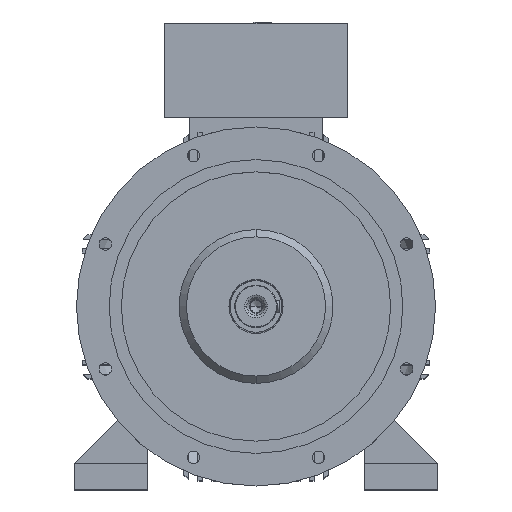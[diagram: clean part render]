
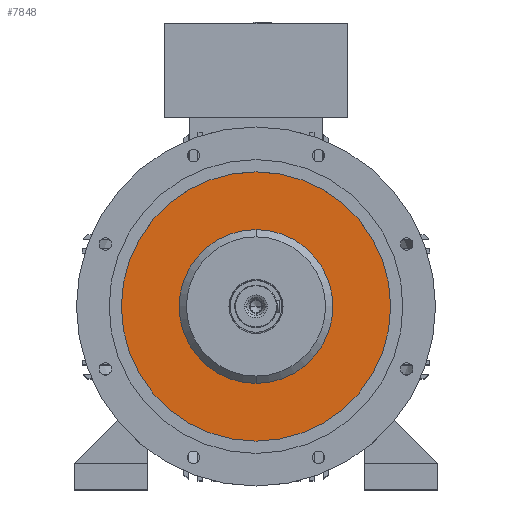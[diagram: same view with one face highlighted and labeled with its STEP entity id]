
A CAD part, top view. The second image highlights one B-rep face of the part: STEP entity #7848.
In plain terms, the highlighted planar face has unit normal (0, 0, 1).
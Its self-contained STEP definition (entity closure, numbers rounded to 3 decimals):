
#946 = AXIS2_PLACEMENT_3D ( 'NONE', #8047, #3389, #8259 ) ;
#1130 = CIRCLE ( 'NONE', #11736, 206.25 ) ;
#3214 = EDGE_CURVE ( 'NONE', #23810, #18027, #1130, .T. ) ;
#3389 = DIRECTION ( 'NONE',  ( 0., 0., 1. ) ) ;
#4090 = CIRCLE ( 'NONE', #21798, 206.25 ) ;
#6023 = CIRCLE ( 'NONE', #6583, 117.8 ) ;
#6480 = VERTEX_POINT ( 'NONE', #24193 ) ;
#6583 = AXIS2_PLACEMENT_3D ( 'NONE', #8346, #29762, #29672 ) ;
#7188 = CARTESIAN_POINT ( 'NONE',  ( 0., 0., 386.3 ) ) ;
#7431 = ORIENTED_EDGE ( 'NONE', *, *, #16953, .T. ) ;
#7848 = ADVANCED_FACE ( 'NONE', ( #28705, #17623 ), #22465, .T. ) ;
#8047 = CARTESIAN_POINT ( 'NONE',  ( 0., 206.25, 386.3 ) ) ;
#8259 = DIRECTION ( 'NONE',  ( 1., 0., 0. ) ) ;
#8346 = CARTESIAN_POINT ( 'NONE',  ( 0., 0., 386.3 ) ) ;
#9181 = ORIENTED_EDGE ( 'NONE', *, *, #12328, .T. ) ;
#11736 = AXIS2_PLACEMENT_3D ( 'NONE', #29522, #14982, #22115 ) ;
#12328 = EDGE_CURVE ( 'NONE', #28325, #6480, #14388, .T. ) ;
#14074 = DIRECTION ( 'NONE',  ( 0., 0., -1. ) ) ;
#14388 = CIRCLE ( 'NONE', #17727, 117.8 ) ;
#14982 = DIRECTION ( 'NONE',  ( 0., 0., 1. ) ) ;
#16953 = EDGE_CURVE ( 'NONE', #18027, #23810, #4090, .T. ) ;
#17623 = FACE_BOUND ( 'NONE', #20637, .T. ) ;
#17727 = AXIS2_PLACEMENT_3D ( 'NONE', #7188, #14074, #25866 ) ;
#18027 = VERTEX_POINT ( 'NONE', #25717 ) ;
#19891 = ORIENTED_EDGE ( 'NONE', *, *, #3214, .T. ) ;
#20637 = EDGE_LOOP ( 'NONE', ( #27873, #9181 ) ) ;
#21798 = AXIS2_PLACEMENT_3D ( 'NONE', #28380, #30643, #23627 ) ;
#22115 = DIRECTION ( 'NONE',  ( -1., 0., 0. ) ) ;
#22465 = PLANE ( 'NONE',  #946 ) ;
#23627 = DIRECTION ( 'NONE',  ( -1., 0., 0. ) ) ;
#23780 = CARTESIAN_POINT ( 'NONE',  ( 0., -117.8, 386.3 ) ) ;
#23810 = VERTEX_POINT ( 'NONE', #29512 ) ;
#24193 = CARTESIAN_POINT ( 'NONE',  ( 0., 117.8, 386.3 ) ) ;
#25717 = CARTESIAN_POINT ( 'NONE',  ( 206.25, 0., 386.3 ) ) ;
#25866 = DIRECTION ( 'NONE',  ( 0., 1., 0. ) ) ;
#26158 = EDGE_LOOP ( 'NONE', ( #19891, #7431 ) ) ;
#27873 = ORIENTED_EDGE ( 'NONE', *, *, #30691, .T. ) ;
#28325 = VERTEX_POINT ( 'NONE', #23780 ) ;
#28380 = CARTESIAN_POINT ( 'NONE',  ( 0., 0., 386.3 ) ) ;
#28705 = FACE_OUTER_BOUND ( 'NONE', #26158, .T. ) ;
#29512 = CARTESIAN_POINT ( 'NONE',  ( -206.25, 0., 386.3 ) ) ;
#29522 = CARTESIAN_POINT ( 'NONE',  ( 0., 0., 386.3 ) ) ;
#29672 = DIRECTION ( 'NONE',  ( 0., 1., 0. ) ) ;
#29762 = DIRECTION ( 'NONE',  ( 0., 0., -1. ) ) ;
#30643 = DIRECTION ( 'NONE',  ( 0., 0., 1. ) ) ;
#30691 = EDGE_CURVE ( 'NONE', #6480, #28325, #6023, .T. ) ;
